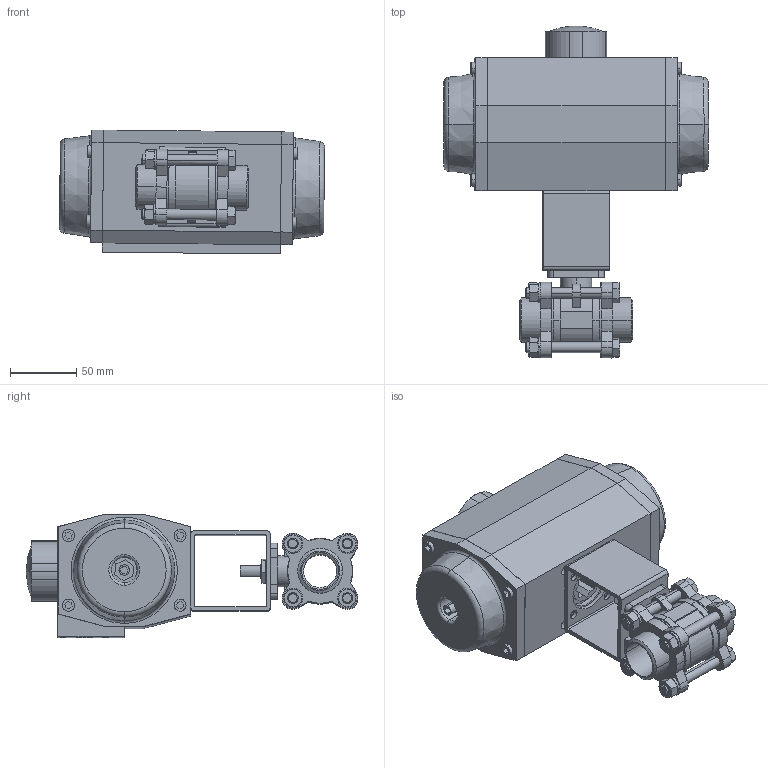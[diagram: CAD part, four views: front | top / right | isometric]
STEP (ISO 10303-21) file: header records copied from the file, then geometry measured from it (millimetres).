
FILE_DESCRIPTION (( 'STEP AP214' ), '1' );
FILE_NAME ('A13 DN25 BW + AP3S.STEP', '2022-02-16T13:17:52', ( '' ), ( '' ), 'SwSTEP 2.0', 'SolidWorks 2018', '' );
FILE_SCHEMA (( 'AUTOMOTIVE_DESIGN' ));
Length unit declared in the file: millimetre
Products named in the file (9): AP3_Default<As Machined>; YB6060F4F5; hex bolt gradec_din_ISO 4016 - M8 x 65 x 22-NN; A13 Flens Buttweld DN25; curved spring lock washer_din_Spring washer DIN 128 - A8; hex nut style 1 gradeab_din_Hexagon Nut ISO 4032 - M8 - D - N; A13 DN25 Buttweld; A13 DN25 BW + AP3S; A13 KK DN25 PN63
Assembly tree (18 placements, depth 3):
  A13 DN25 BW + AP3S
    YB6060F4F5
    AP3_Default<As Machined>
    A13 DN25 Buttweld
      A13 KK DN25 PN63
      A13 Flens Buttweld DN25  x2
      curved spring lock washer_din_Spring washer DIN 128 - A8  x4
      hex nut style 1 gradeab_din_Hexagon Nut ISO 4032 - M8 - D - N  x4
      hex bolt gradec_din_ISO 4016 - M8 x 65 x 22-NN  x4
Bounding box: 199.63 x 250 x 93.36 mm (x, y, z)
Volume: 1648717.3 mm3; surface area: 178248.2 mm2
Topology: 24 solids, 24 shells, 718 faces, 1707 edges, 1063 vertices
Faces by surface type: plane 322, cylinder 222, cone 152, torus 20, sphere 2
Entity records: 17232 total; most frequent: CARTESIAN_POINT 2837, DIRECTION 2646, ORIENTED_EDGE 2412, EDGE_CURVE 1206, AXIS2_PLACEMENT_3D 950, VERTEX_POINT 781, LINE 746, VECTOR 746
